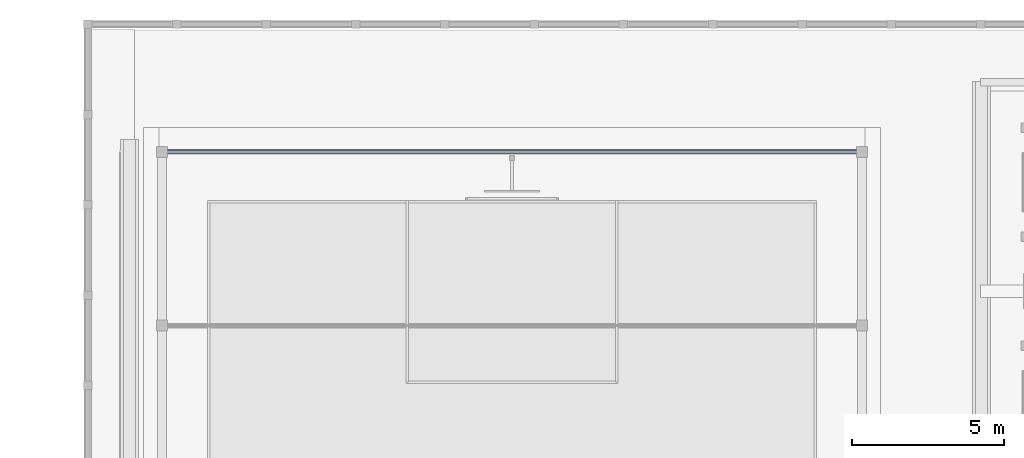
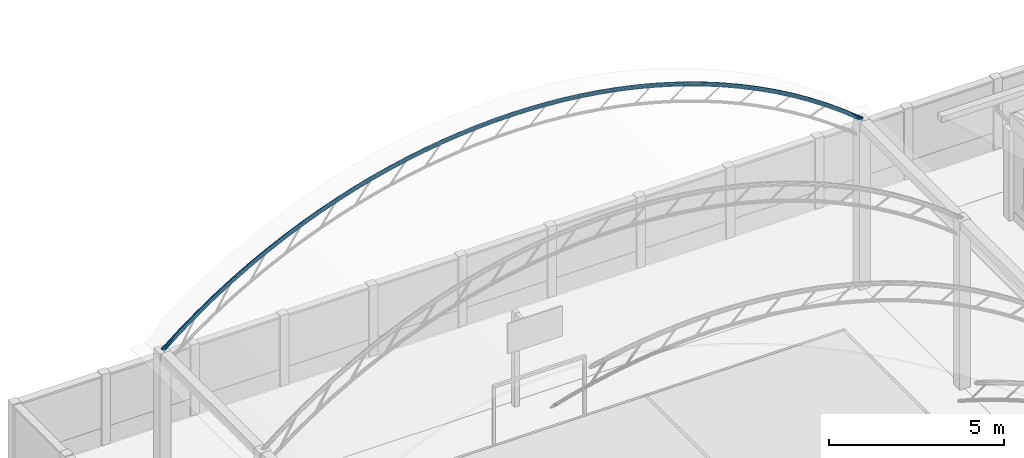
# One storey, part 32 of 177: 1 beam.
"""IFC4 building model written with IfcOpenShell, lengths in metres."""

from ifc_helpers import new_model, si_unit, origin, origin_with_axes, place, context, subcontext, project, spatial, triangles, element, save


model = new_model("IFC4")

# Units and contexts
model_context = context("Model", 3, precision=1e-05, world=origin_with_axes())
body_context = subcontext(model_context, "Body", "Model", "MODEL_VIEW")
ifc_project = project(units=[si_unit("LENGTHUNIT", "METRE"), si_unit("AREAUNIT", "SQUARE_METRE"), si_unit("VOLUMEUNIT", "CUBIC_METRE"), si_unit("PLANEANGLEUNIT", "RADIAN")], contexts=[model_context])

# Site, building, storey
site_placement = place(None, origin_with_axes())
site = spatial("IfcSite", under=ifc_project, at=site_placement, Name="Predio Los Mangos - Morales, San Martín", CompositionType="ELEMENT")
building_placement = place(site_placement, origin())
building = spatial("IfcBuilding", under=site, at=building_placement, Name="Hogar de Refugio Temporal", CompositionType="ELEMENT")
storey_placement = place(building_placement, origin())
storey = spatial("IfcBuildingStorey", under=building, at=storey_placement, Name="NIVEL 1 (NPT +0.00)", CompositionType="ELEMENT", Elevation=0.0)

# Beam
beam_placement = place(storey_placement, origin())
element("IfcBeam", 1, at=beam_placement, inside=storey, Name="arco", ObjectType="Viga", PredefinedType="BEAM", context=body_context, shape_type="Tessellation", body=[
    triangles([(3.4781, 127.0606, 5.9773), (3.462, 127.035, 5.9973), (3.4562, 127.0, 6.0046), (3.462, 126.965, 5.9973), (3.4781, 126.9394, 5.9773), (3.5, 126.93, 5.95), (3.5219, 126.9394, 5.9227), (3.538, 126.965, 5.9027), (3.5438, 127.0, 5.8954), (3.538, 127.035, 5.9027), (3.5219, 127.0606, 5.9227), (3.5, 127.07, 5.95), (4.0561, 127.0606, 6.4418), (4.0405, 127.035, 6.4621), (4.0348, 127.0, 6.4695), (4.0405, 126.965, 6.4621), (4.0561, 126.9394, 6.4418), (4.0775, 126.93, 6.4141), (4.0989, 126.9394, 6.3864), (4.1145, 126.965, 6.3661), (4.1202, 127.0, 6.3586), (4.1145, 127.035, 6.3661), (4.0989, 127.0606, 6.3864), (4.0775, 127.07, 6.4141), (4.6348, 127.0606, 6.8694), (4.6199, 127.035, 6.8903), (4.6145, 127.0, 6.8979), (4.6199, 126.965, 6.8903), (4.6348, 126.9394, 6.8694), (4.655, 126.93, 6.8408), (4.6752, 126.9394, 6.8123), (4.6901, 126.965, 6.7914), (4.6955, 127.0, 6.7837), (4.6901, 127.035, 6.7914), (4.6752, 127.0606, 6.8123), (4.655, 127.07, 6.8408), (5.2134, 127.0606, 7.2627), (5.1994, 127.035, 7.2841), (5.1943, 127.0, 7.292), (5.1994, 126.965, 7.2841), (5.2134, 126.9394, 7.2627), (5.2325, 126.93, 7.2333), (5.2516, 126.9394, 7.204), (5.2656, 126.965, 7.1826), (5.2707, 127.0, 7.1747), (5.2656, 127.035, 7.1826), (5.2516, 127.0606, 7.204), (5.2325, 127.07, 7.2333), (5.792, 127.0606, 7.6243), (5.7788, 127.035, 7.6463), (5.774, 127.0, 7.6543), (5.7788, 126.965, 7.6463), (5.792, 126.9394, 7.6243), (5.81, 126.93, 7.5943), (5.828, 126.9394, 7.5643), (5.8412, 126.965, 7.5423), (5.846, 127.0, 7.5343), (5.8412, 127.035, 7.5423), (5.828, 127.0606, 7.5643), (5.81, 127.07, 7.5943), (6.3706, 127.0606, 7.9565), (6.3583, 127.035, 7.979), (6.3538, 127.0, 7.9872), (6.3583, 126.965, 7.979), (6.3706, 126.9394, 7.9565), (6.3875, 126.93, 7.9259), (6.4044, 126.9394, 7.8952), (6.4167, 126.965, 7.8727), (6.4212, 127.0, 7.8645), (6.4167, 127.035, 7.8727), (6.4044, 127.0606, 7.8952), (6.3875, 127.07, 7.9259), (6.9493, 127.0606, 8.2611), (6.9377, 127.035, 8.284), (6.9335, 127.0, 8.2923), (6.9377, 126.965, 8.284), (6.9493, 126.9394, 8.2611), (6.965, 126.93, 8.2298), (6.9807, 126.9394, 8.1986), (6.9923, 126.965, 8.1757), (6.9965, 127.0, 8.1673), (6.9923, 127.035, 8.1757), (6.9807, 127.0606, 8.1986), (6.965, 127.07, 8.2298), (7.5279, 127.0606, 8.5395), (7.5172, 127.035, 8.5628), (7.5133, 127.0, 8.5713), (7.5172, 126.965, 8.5628), (7.5279, 126.9394, 8.5395), (7.5425, 126.93, 8.5077), (7.5571, 126.9394, 8.4759), (7.5678, 126.965, 8.4527), (7.5717, 127.0, 8.4441), (7.5678, 127.035, 8.4527), (7.5571, 127.0606, 8.4759), (7.5425, 127.07, 8.5077), (8.1065, 127.0606, 8.7932), (8.0966, 127.035, 8.8169), (8.093, 127.0, 8.8255), (8.0966, 126.965, 8.8169), (8.1065, 126.9394, 8.7932), (8.12, 126.93, 8.7609), (8.1335, 126.9394, 8.7286), (8.1434, 126.965, 8.705), (8.147, 127.0, 8.6963), (8.1434, 127.035, 8.705), (8.1335, 127.0606, 8.7286), (8.12, 127.07, 8.7609), (8.6851, 127.0606, 9.0232), (8.6761, 127.035, 9.0472), (8.6728, 127.0, 9.056), (8.6761, 126.965, 9.0472), (8.6851, 126.9394, 9.0232), (8.6975, 126.93, 8.9905), (8.7099, 126.9394, 8.9578), (8.7189, 126.965, 8.9338), (8.7222, 127.0, 8.925), (8.7189, 127.035, 8.9338), (8.7099, 127.0606, 8.9578), (8.6975, 127.07, 8.9905), (9.2638, 127.0606, 9.2305), (9.2555, 127.035, 9.2548), (9.2525, 127.0, 9.2637), (9.2555, 126.965, 9.2548), (9.2638, 126.9394, 9.2305), (9.275, 126.93, 9.1974), (9.2862, 126.9394, 9.1642), (9.2945, 126.965, 9.14), (9.2975, 127.0, 9.1311), (9.2945, 127.035, 9.14), (9.2862, 127.0606, 9.1642), (9.275, 127.07, 9.1974), (9.8424, 127.0606, 9.416), (9.835, 127.035, 9.4405), (9.8323, 127.0, 9.4495), (9.835, 126.965, 9.4405), (9.8424, 126.9394, 9.416), (9.8525, 126.93, 9.3824), (9.8626, 126.9394, 9.3489), (9.87, 126.965, 9.3244), (9.8727, 127.0, 9.3154), (9.87, 127.035, 9.3244), (9.8626, 127.0606, 9.3489), (9.8525, 127.07, 9.3824), (10.421, 127.0606, 9.5802), (10.4144, 127.035, 9.6049), (10.412, 127.0, 9.614), (10.4144, 126.965, 9.6049), (10.421, 126.9394, 9.5802), (10.43, 126.93, 9.5463), (10.439, 126.9394, 9.5125), (10.4456, 126.965, 9.4878), (10.448, 127.0, 9.4787), (10.4456, 127.035, 9.4878), (10.439, 127.0606, 9.5125), (10.43, 127.07, 9.5463), (10.9996, 127.0606, 9.7238), (10.9939, 127.035, 9.7488), (10.9918, 127.0, 9.7579), (10.9939, 126.965, 9.7488), (10.9996, 126.9394, 9.7238), (11.0075, 126.93, 9.6897), (11.0154, 126.9394, 9.6556), (11.0211, 126.965, 9.6306), (11.0232, 127.0, 9.6215), (11.0211, 127.035, 9.6306), (11.0154, 127.0606, 9.6556), (11.0075, 127.07, 9.6897), (11.5783, 127.0606, 9.8473), (11.5733, 127.035, 9.8725), (11.5715, 127.0, 9.8817), (11.5733, 126.965, 9.8725), (11.5783, 126.9394, 9.8473), (11.585, 126.93, 9.813), (11.5917, 126.9394, 9.7786), (11.5967, 126.965, 9.7535), (11.5985, 127.0, 9.7443), (11.5967, 127.035, 9.7535), (11.5917, 127.0606, 9.7786), (11.585, 127.07, 9.813), (12.1569, 127.0606, 9.9512), (12.1528, 127.035, 9.9765), (12.1513, 127.0, 9.9857), (12.1528, 126.965, 9.9765), (12.1569, 126.9394, 9.9512), (12.1625, 126.93, 9.9166), (12.1681, 126.9394, 9.8821), (12.1722, 126.965, 9.8568), (12.1737, 127.0, 9.8476), (12.1722, 127.035, 9.8568), (12.1681, 127.0606, 9.8821), (12.1625, 127.07, 9.9166), (12.7355, 127.0606, 10.0357), (12.7322, 127.035, 10.0611), (12.731, 127.0, 10.0704), (12.7322, 126.965, 10.0611), (12.7355, 126.9394, 10.0357), (12.74, 126.93, 10.001), (12.7445, 126.9394, 9.9663), (12.7478, 126.965, 9.9409), (12.749, 127.0, 9.9316), (12.7478, 127.035, 9.9409), (12.7445, 127.0606, 9.9663), (12.74, 127.07, 10.001), (13.3141, 127.0606, 10.1012), (13.3117, 127.035, 10.1267), (13.3108, 127.0, 10.136), (13.3117, 126.965, 10.1267), (13.3141, 126.9394, 10.1012), (13.3175, 126.93, 10.0663), (13.3209, 126.9394, 10.0315), (13.3233, 126.965, 10.006), (13.3242, 127.0, 9.9967), (13.3233, 127.035, 10.006), (13.3209, 127.0606, 10.0315), (13.3175, 127.07, 10.0663), (13.8928, 127.0606, 10.1478), (13.8911, 127.035, 10.1734), (13.8905, 127.0, 10.1827), (13.8911, 126.965, 10.1734), (13.8928, 126.9394, 10.1478), (13.895, 126.93, 10.1129), (13.8972, 126.9394, 10.0779), (13.8989, 126.965, 10.0524), (13.8995, 127.0, 10.043), (13.8989, 127.035, 10.0524), (13.8972, 127.0606, 10.0779), (13.895, 127.07, 10.1129), (14.4714, 127.0606, 10.1757), (14.4706, 127.035, 10.2013), (14.4703, 127.0, 10.2107), (14.4706, 126.965, 10.2013), (14.4714, 126.9394, 10.1757), (14.4725, 126.93, 10.1407), (14.4736, 126.9394, 10.1057), (14.4744, 126.965, 10.0801), (14.4747, 127.0, 10.0708), (14.4744, 127.035, 10.0801), (14.4736, 127.0606, 10.1057), (14.4725, 127.07, 10.1407), (15.05, 127.0606, 10.185), (15.05, 127.035, 10.2106), (15.05, 127.0, 10.22), (15.05, 126.965, 10.2106), (15.05, 126.9394, 10.185), (15.05, 126.93, 10.15), (15.05, 126.9394, 10.115), (15.05, 126.965, 10.0894), (15.05, 127.0, 10.08), (15.05, 127.035, 10.0894), (15.05, 127.0606, 10.115), (15.05, 127.07, 10.15), (15.6286, 127.0606, 10.1757), (15.6294, 127.035, 10.2013), (15.6297, 127.0, 10.2107), (15.6294, 126.965, 10.2013), (15.6286, 126.9394, 10.1757), (15.6275, 126.93, 10.1407), (15.6264, 126.9394, 10.1057), (15.6256, 126.965, 10.0801), (15.6253, 127.0, 10.0708), (15.6256, 127.035, 10.0801), (15.6264, 127.0606, 10.1057), (15.6275, 127.07, 10.1407), (16.2072, 127.0606, 10.1478), (16.2089, 127.035, 10.1734), (16.2095, 127.0, 10.1827), (16.2089, 126.965, 10.1734), (16.2072, 126.9394, 10.1478), (16.205, 126.93, 10.1129), (16.2028, 126.9394, 10.0779), (16.2011, 126.965, 10.0524), (16.2005, 127.0, 10.043), (16.2011, 127.035, 10.0524), (16.2028, 127.0606, 10.0779), (16.205, 127.07, 10.1129), (16.7859, 127.0606, 10.1012), (16.7883, 127.035, 10.1267), (16.7892, 127.0, 10.136), (16.7883, 126.965, 10.1267), (16.7859, 126.9394, 10.1012), (16.7825, 126.93, 10.0663), (16.7791, 126.9394, 10.0315), (16.7767, 126.965, 10.006), (16.7758, 127.0, 9.9967), (16.7767, 127.035, 10.006), (16.7791, 127.0606, 10.0315), (16.7825, 127.07, 10.0663), (17.3645, 127.0606, 10.0357), (17.3678, 127.035, 10.0611), (17.369, 127.0, 10.0704), (17.3678, 126.965, 10.0611), (17.3645, 126.9394, 10.0357), (17.36, 126.93, 10.001), (17.3555, 126.9394, 9.9663), (17.3522, 126.965, 9.9409), (17.351, 127.0, 9.9316), (17.3522, 127.035, 9.9409), (17.3555, 127.0606, 9.9663), (17.36, 127.07, 10.001), (17.9431, 127.0606, 9.9512), (17.9472, 127.035, 9.9765), (17.9487, 127.0, 9.9857), (17.9472, 126.965, 9.9765), (17.9431, 126.9394, 9.9512), (17.9375, 126.93, 9.9166), (17.9319, 126.9394, 9.8821), (17.9278, 126.965, 9.8568), (17.9263, 127.0, 9.8476), (17.9278, 127.035, 9.8568), (17.9319, 127.0606, 9.8821), (17.9375, 127.07, 9.9166), (18.5217, 127.0606, 9.8473), (18.5267, 127.035, 9.8725), (18.5285, 127.0, 9.8817), (18.5267, 126.965, 9.8725), (18.5217, 126.9394, 9.8473), (18.515, 126.93, 9.813), (18.5083, 126.9394, 9.7786), (18.5033, 126.965, 9.7535), (18.5015, 127.0, 9.7443), (18.5033, 127.035, 9.7535), (18.5083, 127.0606, 9.7786), (18.515, 127.07, 9.813), (19.1004, 127.0606, 9.7238), (19.1061, 127.035, 9.7488), (19.1082, 127.0, 9.7579), (19.1061, 126.965, 9.7488), (19.1004, 126.9394, 9.7238), (19.0925, 126.93, 9.6897), (19.0846, 126.9394, 9.6556), (19.0789, 126.965, 9.6306), (19.0768, 127.0, 9.6215), (19.0789, 127.035, 9.6306), (19.0846, 127.0606, 9.6556), (19.0925, 127.07, 9.6897), (19.679, 127.0606, 9.5802), (19.6856, 127.035, 9.6049), (19.688, 127.0, 9.614), (19.6856, 126.965, 9.6049), (19.679, 126.9394, 9.5802), (19.67, 126.93, 9.5463), (19.661, 126.9394, 9.5125), (19.6544, 126.965, 9.4878), (19.652, 127.0, 9.4787), (19.6544, 127.035, 9.4878), (19.661, 127.0606, 9.5125), (19.67, 127.07, 9.5463), (20.2576, 127.0606, 9.416), (20.265, 127.035, 9.4405), (20.2677, 127.0, 9.4495), (20.265, 126.965, 9.4405), (20.2576, 126.9394, 9.416), (20.2475, 126.93, 9.3824), (20.2374, 126.9394, 9.3489), (20.23, 126.965, 9.3244), (20.2273, 127.0, 9.3154), (20.23, 127.035, 9.3244), (20.2374, 127.0606, 9.3489), (20.2475, 127.07, 9.3824), (20.8362, 127.0606, 9.2305), (20.8445, 127.035, 9.2548), (20.8475, 127.0, 9.2637), (20.8445, 126.965, 9.2548), (20.8362, 126.9394, 9.2305), (20.825, 126.93, 9.1974), (20.8138, 126.9394, 9.1642), (20.8055, 126.965, 9.14), (20.8025, 127.0, 9.1311), (20.8055, 127.035, 9.14), (20.8138, 127.0606, 9.1642), (20.825, 127.07, 9.1974), (21.4149, 127.0606, 9.0232), (21.4239, 127.035, 9.0472), (21.4272, 127.0, 9.056), (21.4239, 126.965, 9.0472), (21.4149, 126.9394, 9.0232), (21.4025, 126.93, 8.9905), (21.3901, 126.9394, 8.9578), (21.3811, 126.965, 8.9338), (21.3778, 127.0, 8.925), (21.3811, 127.035, 8.9338), (21.3901, 127.0606, 8.9578), (21.4025, 127.07, 8.9905), (21.9935, 127.0606, 8.7932), (22.0034, 127.035, 8.8169), (22.007, 127.0, 8.8255), (22.0034, 126.965, 8.8169), (21.9935, 126.9394, 8.7932), (21.98, 126.93, 8.7609), (21.9665, 126.9394, 8.7286), (21.9566, 126.965, 8.705), (21.953, 127.0, 8.6963), (21.9566, 127.035, 8.705), (21.9665, 127.0606, 8.7286), (21.98, 127.07, 8.7609), (22.5721, 127.0606, 8.5395), (22.5828, 127.035, 8.5628), (22.5867, 127.0, 8.5713), (22.5828, 126.965, 8.5628), (22.5721, 126.9394, 8.5395), (22.5575, 126.93, 8.5077), (22.5429, 126.9394, 8.4759), (22.5322, 126.965, 8.4527), (22.5283, 127.0, 8.4441), (22.5322, 127.035, 8.4527), (22.5429, 127.0606, 8.4759), (22.5575, 127.07, 8.5077), (23.1507, 127.0606, 8.2611), (23.1623, 127.035, 8.284), (23.1665, 127.0, 8.2923), (23.1623, 126.965, 8.284), (23.1507, 126.9394, 8.2611), (23.135, 126.93, 8.2298), (23.1193, 126.9394, 8.1986), (23.1077, 126.965, 8.1757), (23.1035, 127.0, 8.1673), (23.1077, 127.035, 8.1757), (23.1193, 127.0606, 8.1986), (23.135, 127.07, 8.2298), (23.7294, 127.0606, 7.9565), (23.7417, 127.035, 7.979), (23.7462, 127.0, 7.9872), (23.7417, 126.965, 7.979), (23.7294, 126.9394, 7.9565), (23.7125, 126.93, 7.9259), (23.6956, 126.9394, 7.8952), (23.6833, 126.965, 7.8727), (23.6788, 127.0, 7.8645), (23.6833, 127.035, 7.8727), (23.6956, 127.0606, 7.8952), (23.7125, 127.07, 7.9259), (24.308, 127.0606, 7.6243), (24.3212, 127.035, 7.6463), (24.326, 127.0, 7.6543), (24.3212, 126.965, 7.6463), (24.308, 126.9394, 7.6243), (24.29, 126.93, 7.5943), (24.272, 126.9394, 7.5643), (24.2588, 126.965, 7.5423), (24.254, 127.0, 7.5343), (24.2588, 127.035, 7.5423), (24.272, 127.0606, 7.5643), (24.29, 127.07, 7.5943), (24.8866, 127.0606, 7.2627), (24.9006, 127.035, 7.2841), (24.9057, 127.0, 7.292), (24.9006, 126.965, 7.2841), (24.8866, 126.9394, 7.2627), (24.8675, 126.93, 7.2333), (24.8484, 126.9394, 7.204), (24.8344, 126.965, 7.1826), (24.8293, 127.0, 7.1747), (24.8344, 127.035, 7.1826), (24.8484, 127.0606, 7.204), (24.8675, 127.07, 7.2333), (25.4652, 127.0606, 6.8694), (25.4801, 127.035, 6.8903), (25.4855, 127.0, 6.8979), (25.4801, 126.965, 6.8903), (25.4652, 126.9394, 6.8694), (25.445, 126.93, 6.8408), (25.4248, 126.9394, 6.8123), (25.4099, 126.965, 6.7914), (25.4045, 127.0, 6.7837), (25.4099, 127.035, 6.7914), (25.4248, 127.0606, 6.8123), (25.445, 127.07, 6.8408), (26.0439, 127.0606, 6.4418), (26.0595, 127.035, 6.4621), (26.0652, 127.0, 6.4695), (26.0595, 126.965, 6.4621), (26.0439, 126.9394, 6.4418), (26.0225, 126.93, 6.4141), (26.0011, 126.9394, 6.3864), (25.9855, 126.965, 6.3661), (25.9798, 127.0, 6.3586), (25.9855, 127.035, 6.3661), (26.0011, 127.0606, 6.3864), (26.0225, 127.07, 6.4141), (26.6219, 127.0606, 5.9773), (26.638, 127.035, 5.9973), (26.6438, 127.0, 6.0046), (26.638, 126.965, 5.9973), (26.6219, 126.9394, 5.9773), (26.6, 126.93, 5.95), (26.5781, 126.9394, 5.9227), (26.562, 126.965, 5.9027), (26.5562, 127.0, 5.8954), (26.562, 127.035, 5.9027), (26.5781, 127.0606, 5.9227), (26.6, 127.07, 5.95)], [[1, 13, 24], [1, 24, 12], [2, 14, 13], [2, 13, 1], [3, 15, 14], [3, 14, 2], [4, 16, 15], [4, 15, 3], [5, 17, 16], [5, 16, 4], [6, 18, 17], [6, 17, 5], [7, 19, 18], [7, 18, 6], [8, 20, 19], [8, 19, 7], [9, 21, 20], [9, 20, 8], [10, 22, 21], [10, 21, 9], [11, 23, 22], [11, 22, 10], [12, 24, 23], [12, 23, 11], [13, 25, 36], [13, 36, 24], [14, 26, 25], [14, 25, 13], [15, 27, 26], [15, 26, 14], [16, 28, 27], [16, 27, 15], [17, 29, 28], [17, 28, 16], [18, 30, 29], [18, 29, 17], [19, 31, 30], [19, 30, 18], [20, 32, 31], [20, 31, 19], [21, 33, 32], [21, 32, 20], [22, 34, 33], [22, 33, 21], [23, 35, 34], [23, 34, 22], [24, 36, 35], [24, 35, 23], [25, 37, 48], [25, 48, 36], [26, 38, 37], [26, 37, 25], [27, 39, 38], [27, 38, 26], [28, 40, 39], [28, 39, 27], [29, 41, 40], [29, 40, 28], [30, 42, 41], [30, 41, 29], [31, 43, 42], [31, 42, 30], [32, 44, 43], [32, 43, 31], [33, 45, 44], [33, 44, 32], [34, 46, 45], [34, 45, 33], [35, 47, 46], [35, 46, 34], [36, 48, 47], [36, 47, 35], [37, 49, 60], [37, 60, 48], [38, 50, 49], [38, 49, 37], [39, 51, 50], [39, 50, 38], [40, 52, 51], [40, 51, 39], [41, 53, 52], [41, 52, 40], [42, 54, 53], [42, 53, 41], [43, 55, 54], [43, 54, 42], [44, 56, 55], [44, 55, 43], [45, 57, 56], [45, 56, 44], [46, 58, 57], [46, 57, 45], [47, 59, 58], [47, 58, 46], [48, 60, 59], [48, 59, 47], [49, 61, 72], [49, 72, 60], [50, 62, 61], [50, 61, 49], [51, 63, 62], [51, 62, 50], [52, 64, 63], [52, 63, 51], [53, 65, 64], [53, 64, 52], [54, 66, 65], [54, 65, 53], [55, 67, 66], [55, 66, 54], [56, 68, 67], [56, 67, 55], [57, 69, 68], [57, 68, 56], [58, 70, 69], [58, 69, 57], [59, 71, 70], [59, 70, 58], [60, 72, 71], [60, 71, 59], [61, 73, 84], [61, 84, 72], [62, 74, 73], [62, 73, 61], [63, 75, 74], [63, 74, 62], [64, 76, 75], [64, 75, 63], [65, 77, 76], [65, 76, 64], [66, 78, 77], [66, 77, 65], [67, 79, 78], [67, 78, 66], [68, 80, 79], [68, 79, 67], [69, 81, 80], [69, 80, 68], [70, 82, 81], [70, 81, 69], [71, 83, 82], [71, 82, 70], [72, 84, 83], [72, 83, 71], [73, 85, 96], [73, 96, 84], [74, 86, 85], [74, 85, 73], [75, 87, 86], [75, 86, 74], [76, 88, 87], [76, 87, 75], [77, 89, 88], [77, 88, 76], [78, 90, 89], [78, 89, 77], [79, 91, 90], [79, 90, 78], [80, 92, 91], [80, 91, 79], [81, 93, 92], [81, 92, 80], [82, 94, 93], [82, 93, 81], [83, 95, 94], [83, 94, 82], [84, 96, 95], [84, 95, 83], [85, 97, 108], [85, 108, 96], [86, 98, 97], [86, 97, 85], [87, 99, 98], [87, 98, 86], [88, 100, 99], [88, 99, 87], [89, 101, 100], [89, 100, 88], [90, 102, 101], [90, 101, 89], [91, 103, 102], [91, 102, 90], [92, 104, 103], [92, 103, 91], [93, 105, 104], [93, 104, 92], [94, 106, 105], [94, 105, 93], [95, 107, 106], [95, 106, 94], [96, 108, 107], [96, 107, 95], [97, 109, 120], [97, 120, 108], [98, 110, 109], [98, 109, 97], [99, 111, 110], [99, 110, 98], [100, 112, 111], [100, 111, 99], [101, 113, 112], [101, 112, 100], [102, 114, 113], [102, 113, 101], [103, 115, 114], [103, 114, 102], [104, 116, 115], [104, 115, 103], [105, 117, 116], [105, 116, 104], [106, 118, 117], [106, 117, 105], [107, 119, 118], [107, 118, 106], [108, 120, 119], [108, 119, 107], [109, 121, 132], [109, 132, 120], [110, 122, 121], [110, 121, 109], [111, 123, 122], [111, 122, 110], [112, 124, 123], [112, 123, 111], [113, 125, 124], [113, 124, 112], [114, 126, 125], [114, 125, 113], [115, 127, 126], [115, 126, 114], [116, 128, 127], [116, 127, 115], [117, 129, 128], [117, 128, 116], [118, 130, 129], [118, 129, 117], [119, 131, 130], [119, 130, 118], [120, 132, 131], [120, 131, 119], [121, 133, 144], [121, 144, 132], [122, 134, 133], [122, 133, 121], [123, 135, 134], [123, 134, 122], [124, 136, 135], [124, 135, 123], [125, 137, 136], [125, 136, 124], [126, 138, 137], [126, 137, 125], [127, 139, 138], [127, 138, 126], [128, 140, 139], [128, 139, 127], [129, 141, 140], [129, 140, 128], [130, 142, 141], [130, 141, 129], [131, 143, 142], [131, 142, 130], [132, 144, 143], [132, 143, 131], [133, 145, 156], [133, 156, 144], [134, 146, 145], [134, 145, 133], [135, 147, 146], [135, 146, 134], [136, 148, 147], [136, 147, 135], [137, 149, 148], [137, 148, 136], [138, 150, 149], [138, 149, 137], [139, 151, 150], [139, 150, 138], [140, 152, 151], [140, 151, 139], [141, 153, 152], [141, 152, 140], [142, 154, 153], [142, 153, 141], [143, 155, 154], [143, 154, 142], [144, 156, 155], [144, 155, 143], [145, 157, 168], [145, 168, 156], [146, 158, 157], [146, 157, 145], [147, 159, 158], [147, 158, 146], [148, 160, 159], [148, 159, 147], [149, 161, 160], [149, 160, 148], [150, 162, 161], [150, 161, 149], [151, 163, 162], [151, 162, 150], [152, 164, 163], [152, 163, 151], [153, 165, 164], [153, 164, 152], [154, 166, 165], [154, 165, 153], [155, 167, 166], [155, 166, 154], [156, 168, 167], [156, 167, 155], [157, 169, 180], [157, 180, 168], [158, 170, 169], [158, 169, 157], [159, 171, 170], [159, 170, 158], [160, 172, 171], [160, 171, 159], [161, 173, 172], [161, 172, 160], [162, 174, 173], [162, 173, 161], [163, 175, 174], [163, 174, 162], [164, 176, 175], [164, 175, 163], [165, 177, 176], [165, 176, 164], [166, 178, 177], [166, 177, 165], [167, 179, 178], [167, 178, 166], [168, 180, 179], [168, 179, 167], [169, 181, 192], [169, 192, 180], [170, 182, 181], [170, 181, 169], [171, 183, 182], [171, 182, 170], [172, 184, 183], [172, 183, 171], [173, 185, 184], [173, 184, 172], [174, 186, 185], [174, 185, 173], [175, 187, 186], [175, 186, 174], [176, 188, 187], [176, 187, 175], [177, 189, 188], [177, 188, 176], [178, 190, 189], [178, 189, 177], [179, 191, 190], [179, 190, 178], [180, 192, 191], [180, 191, 179], [181, 193, 204], [181, 204, 192], [182, 194, 193], [182, 193, 181], [183, 195, 194], [183, 194, 182], [184, 196, 195], [184, 195, 183], [185, 197, 196], [185, 196, 184], [186, 198, 197], [186, 197, 185], [187, 199, 198], [187, 198, 186], [188, 200, 199], [188, 199, 187], [189, 201, 200], [189, 200, 188], [190, 202, 201], [190, 201, 189], [191, 203, 202], [191, 202, 190], [192, 204, 203], [192, 203, 191], [193, 205, 216], [193, 216, 204], [194, 206, 205], [194, 205, 193], [195, 207, 206], [195, 206, 194], [196, 208, 207], [196, 207, 195], [197, 209, 208], [197, 208, 196], [198, 210, 209], [198, 209, 197], [199, 211, 210], [199, 210, 198], [200, 212, 211], [200, 211, 199], [201, 213, 212], [201, 212, 200], [202, 214, 213], [202, 213, 201], [203, 215, 214], [203, 214, 202], [204, 216, 215], [204, 215, 203], [205, 217, 228], [205, 228, 216], [206, 218, 217], [206, 217, 205], [207, 219, 218], [207, 218, 206], [208, 220, 219], [208, 219, 207], [209, 221, 220], [209, 220, 208], [210, 222, 221], [210, 221, 209], [211, 223, 222], [211, 222, 210], [212, 224, 223], [212, 223, 211], [213, 225, 224], [213, 224, 212], [214, 226, 225], [214, 225, 213], [215, 227, 226], [215, 226, 214], [216, 228, 227], [216, 227, 215], [217, 229, 240], [217, 240, 228], [218, 230, 229], [218, 229, 217], [219, 231, 230], [219, 230, 218], [220, 232, 231], [220, 231, 219], [221, 233, 232], [221, 232, 220], [222, 234, 233], [222, 233, 221], [223, 235, 234], [223, 234, 222], [224, 236, 235], [224, 235, 223], [225, 237, 236], [225, 236, 224], [226, 238, 237], [226, 237, 225], [227, 239, 238], [227, 238, 226], [228, 240, 239], [228, 239, 227], [229, 241, 252], [229, 252, 240], [230, 242, 241], [230, 241, 229], [231, 243, 242], [231, 242, 230], [232, 244, 243], [232, 243, 231], [233, 245, 244], [233, 244, 232], [234, 246, 245], [234, 245, 233], [235, 247, 246], [235, 246, 234], [236, 248, 247], [236, 247, 235], [237, 249, 248], [237, 248, 236], [238, 250, 249], [238, 249, 237], [239, 251, 250], [239, 250, 238], [240, 252, 251], [240, 251, 239], [241, 253, 264], [241, 264, 252], [242, 254, 253], [242, 253, 241], [243, 255, 254], [243, 254, 242], [244, 256, 255], [244, 255, 243], [245, 257, 256], [245, 256, 244], [246, 258, 257], [246, 257, 245], [247, 259, 258], [247, 258, 246], [248, 260, 259], [248, 259, 247], [249, 261, 260], [249, 260, 248], [250, 262, 261], [250, 261, 249], [251, 263, 262], [251, 262, 250], [252, 264, 263], [252, 263, 251], [253, 265, 276], [253, 276, 264], [254, 266, 265], [254, 265, 253], [255, 267, 266], [255, 266, 254], [256, 268, 267], [256, 267, 255], [257, 269, 268], [257, 268, 256], [258, 270, 269], [258, 269, 257], [259, 271, 270], [259, 270, 258], [260, 272, 271], [260, 271, 259], [261, 273, 272], [261, 272, 260], [262, 274, 273], [262, 273, 261], [263, 275, 274], [263, 274, 262], [264, 276, 275], [264, 275, 263], [265, 277, 288], [265, 288, 276], [266, 278, 277], [266, 277, 265], [267, 279, 278], [267, 278, 266], [268, 280, 279], [268, 279, 267], [269, 281, 280], [269, 280, 268], [270, 282, 281], [270, 281, 269], [271, 283, 282], [271, 282, 270], [272, 284, 283], [272, 283, 271], [273, 285, 284], [273, 284, 272], [274, 286, 285], [274, 285, 273], [275, 287, 286], [275, 286, 274], [276, 288, 287], [276, 287, 275], [277, 289, 300], [277, 300, 288], [278, 290, 289], [278, 289, 277], [279, 291, 290], [279, 290, 278], [280, 292, 291], [280, 291, 279], [281, 293, 292], [281, 292, 280], [282, 294, 293], [282, 293, 281], [283, 295, 294], [283, 294, 282], [284, 296, 295], [284, 295, 283], [285, 297, 296], [285, 296, 284], [286, 298, 297], [286, 297, 285], [287, 299, 298], [287, 298, 286], [288, 300, 299], [288, 299, 287], [289, 301, 312], [289, 312, 300], [290, 302, 301], [290, 301, 289], [291, 303, 302], [291, 302, 290], [292, 304, 303], [292, 303, 291], [293, 305, 304], [293, 304, 292], [294, 306, 305], [294, 305, 293], [295, 307, 306], [295, 306, 294], [296, 308, 307], [296, 307, 295], [297, 309, 308], [297, 308, 296], [298, 310, 309], [298, 309, 297], [299, 311, 310], [299, 310, 298], [300, 312, 311], [300, 311, 299], [301, 313, 324], [301, 324, 312], [302, 314, 313], [302, 313, 301], [303, 315, 314], [303, 314, 302], [304, 316, 315], [304, 315, 303], [305, 317, 316], [305, 316, 304], [306, 318, 317], [306, 317, 305], [307, 319, 318], [307, 318, 306], [308, 320, 319], [308, 319, 307], [309, 321, 320], [309, 320, 308], [310, 322, 321], [310, 321, 309], [311, 323, 322], [311, 322, 310], [312, 324, 323], [312, 323, 311], [313, 325, 336], [313, 336, 324], [314, 326, 325], [314, 325, 313], [315, 327, 326], [315, 326, 314], [316, 328, 327], [316, 327, 315], [317, 329, 328], [317, 328, 316], [318, 330, 329], [318, 329, 317], [319, 331, 330], [319, 330, 318], [320, 332, 331], [320, 331, 319], [321, 333, 332], [321, 332, 320], [322, 334, 333], [322, 333, 321], [323, 335, 334], [323, 334, 322], [324, 336, 335], [324, 335, 323], [325, 337, 348], [325, 348, 336], [326, 338, 337], [326, 337, 325], [327, 339, 338], [327, 338, 326], [328, 340, 339], [328, 339, 327], [329, 341, 340], [329, 340, 328], [330, 342, 341], [330, 341, 329], [331, 343, 342], [331, 342, 330], [332, 344, 343], [332, 343, 331], [333, 345, 344], [333, 344, 332], [334, 346, 345], [334, 345, 333], [335, 347, 346], [335, 346, 334], [336, 348, 347], [336, 347, 335], [337, 349, 360], [337, 360, 348], [338, 350, 349], [338, 349, 337], [339, 351, 350], [339, 350, 338], [340, 352, 351], [340, 351, 339], [341, 353, 352], [341, 352, 340], [342, 354, 353], [342, 353, 341], [343, 355, 354], [343, 354, 342], [344, 356, 355], [344, 355, 343], [345, 357, 356], [345, 356, 344], [346, 358, 357], [346, 357, 345], [347, 359, 358], [347, 358, 346], [348, 360, 359], [348, 359, 347], [349, 361, 372], [349, 372, 360], [350, 362, 361], [350, 361, 349], [351, 363, 362], [351, 362, 350], [352, 364, 363], [352, 363, 351], [353, 365, 364], [353, 364, 352], [354, 366, 365], [354, 365, 353], [355, 367, 366], [355, 366, 354], [356, 368, 367], [356, 367, 355], [357, 369, 368], [357, 368, 356], [358, 370, 369], [358, 369, 357], [359, 371, 370], [359, 370, 358], [360, 372, 371], [360, 371, 359], [361, 373, 384], [361, 384, 372], [362, 374, 373], [362, 373, 361], [363, 375, 374], [363, 374, 362], [364, 376, 375], [364, 375, 363], [365, 377, 376], [365, 376, 364], [366, 378, 377], [366, 377, 365], [367, 379, 378], [367, 378, 366], [368, 380, 379], [368, 379, 367], [369, 381, 380], [369, 380, 368], [370, 382, 381], [370, 381, 369], [371, 383, 382], [371, 382, 370], [372, 384, 383], [372, 383, 371], [373, 385, 396], [373, 396, 384], [374, 386, 385], [374, 385, 373], [375, 387, 386], [375, 386, 374], [376, 388, 387], [376, 387, 375], [377, 389, 388], [377, 388, 376], [378, 390, 389], [378, 389, 377], [379, 391, 390], [379, 390, 378], [380, 392, 391], [380, 391, 379], [381, 393, 392], [381, 392, 380], [382, 394, 393], [382, 393, 381], [383, 395, 394], [383, 394, 382], [384, 396, 395], [384, 395, 383], [385, 397, 408], [385, 408, 396], [386, 398, 397], [386, 397, 385], [387, 399, 398], [387, 398, 386], [388, 400, 399], [388, 399, 387], [389, 401, 400], [389, 400, 388], [390, 402, 401], [390, 401, 389], [391, 403, 402], [391, 402, 390], [392, 404, 403], [392, 403, 391], [393, 405, 404], [393, 404, 392], [394, 406, 405], [394, 405, 393], [395, 407, 406], [395, 406, 394], [396, 408, 407], [396, 407, 395], [397, 409, 420], [397, 420, 408], [398, 410, 409], [398, 409, 397], [399, 411, 410], [399, 410, 398], [400, 412, 411], [400, 411, 399], [401, 413, 412], [401, 412, 400], [402, 414, 413], [402, 413, 401], [403, 415, 414], [403, 414, 402], [404, 416, 415], [404, 415, 403], [405, 417, 416], [405, 416, 404], [406, 418, 417], [406, 417, 405], [407, 419, 418], [407, 418, 406], [408, 420, 419], [408, 419, 407], [409, 421, 432], [409, 432, 420], [410, 422, 421], [410, 421, 409], [411, 423, 422], [411, 422, 410], [412, 424, 423], [412, 423, 411], [413, 425, 424], [413, 424, 412], [414, 426, 425], [414, 425, 413], [415, 427, 426], [415, 426, 414], [416, 428, 427], [416, 427, 415], [417, 429, 428], [417, 428, 416], [418, 430, 429], [418, 429, 417], [419, 431, 430], [419, 430, 418], [420, 432, 431], [420, 431, 419], [421, 433, 444], [421, 444, 432], [422, 434, 433], [422, 433, 421], [423, 435, 434], [423, 434, 422], [424, 436, 435], [424, 435, 423], [425, 437, 436], [425, 436, 424], [426, 438, 437], [426, 437, 425], [427, 439, 438], [427, 438, 426], [428, 440, 439], [428, 439, 427], [429, 441, 440], [429, 440, 428], [430, 442, 441], [430, 441, 429], [431, 443, 442], [431, 442, 430], [432, 444, 443], [432, 443, 431], [433, 445, 456], [433, 456, 444], [434, 446, 445], [434, 445, 433], [435, 447, 446], [435, 446, 434], [436, 448, 447], [436, 447, 435], [437, 449, 448], [437, 448, 436], [438, 450, 449], [438, 449, 437], [439, 451, 450], [439, 450, 438], [440, 452, 451], [440, 451, 439], [441, 453, 452], [441, 452, 440], [442, 454, 453], [442, 453, 441], [443, 455, 454], [443, 454, 442], [444, 456, 455], [444, 455, 443], [445, 457, 468], [445, 468, 456], [446, 458, 457], [446, 457, 445], [447, 459, 458], [447, 458, 446], [448, 460, 459], [448, 459, 447], [449, 461, 460], [449, 460, 448], [450, 462, 461], [450, 461, 449], [451, 463, 462], [451, 462, 450], [452, 464, 463], [452, 463, 451], [453, 465, 464], [453, 464, 452], [454, 466, 465], [454, 465, 453], [455, 467, 466], [455, 466, 454], [456, 468, 467], [456, 467, 455], [457, 469, 480], [457, 480, 468], [458, 470, 469], [458, 469, 457], [459, 471, 470], [459, 470, 458], [460, 472, 471], [460, 471, 459], [461, 473, 472], [461, 472, 460], [462, 474, 473], [462, 473, 461], [463, 475, 474], [463, 474, 462], [464, 476, 475], [464, 475, 463], [465, 477, 476], [465, 476, 464], [466, 478, 477], [466, 477, 465], [467, 479, 478], [467, 478, 466], [468, 480, 479], [468, 479, 467], [469, 481, 492], [469, 492, 480], [470, 482, 481], [470, 481, 469], [471, 483, 482], [471, 482, 470], [472, 484, 483], [472, 483, 471], [473, 485, 484], [473, 484, 472], [474, 486, 485], [474, 485, 473], [475, 487, 486], [475, 486, 474], [476, 488, 487], [476, 487, 475], [477, 489, 488], [477, 488, 476], [478, 490, 489], [478, 489, 477], [479, 491, 490], [479, 490, 478], [480, 492, 491], [480, 491, 479]]),
])

save(model, "model.ifc")
